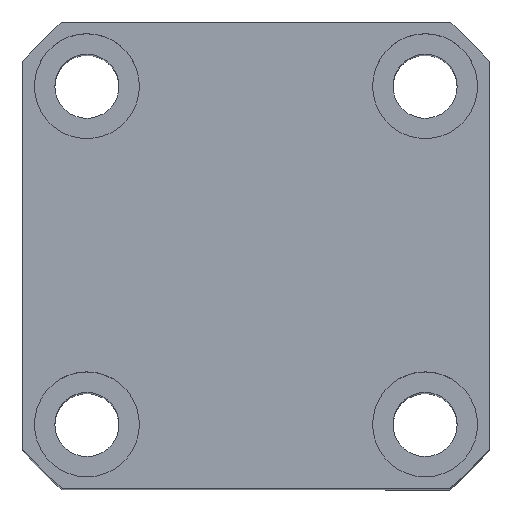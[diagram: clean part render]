
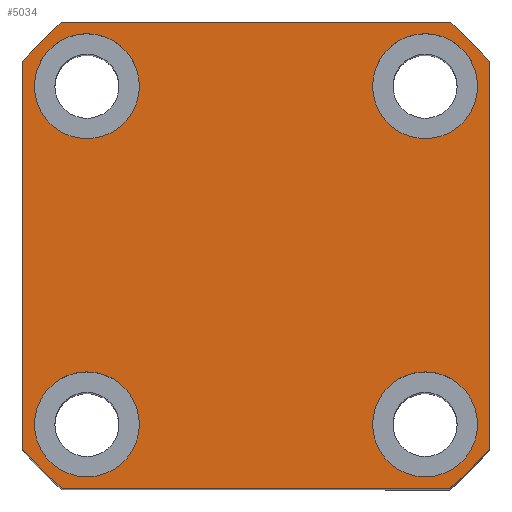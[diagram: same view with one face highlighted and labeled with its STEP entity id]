
A CAD part, top view. The second image highlights one B-rep face of the part: STEP entity #5034.
In plain terms, the highlighted planar face has unit normal (0, 0, 1).
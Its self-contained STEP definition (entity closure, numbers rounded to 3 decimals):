
#171 = DIRECTION ( 'NONE',  ( 0., 0., 1. ) ) ;
#208 = DIRECTION ( 'NONE',  ( 0., -1., 0. ) ) ;
#233 = VERTEX_POINT ( 'NONE', #699 ) ;
#261 = CARTESIAN_POINT ( 'NONE',  ( -29., -29., 75. ) ) ;
#317 = EDGE_CURVE ( 'NONE', #2623, #10497, #5417, .T. ) ;
#337 = CARTESIAN_POINT ( 'NONE',  ( -40., 33.226, 75. ) ) ;
#408 = EDGE_CURVE ( 'NONE', #10497, #2623, #2910, .T. ) ;
#625 = DIRECTION ( 'NONE',  ( -1., 0., 0. ) ) ;
#660 = VERTEX_POINT ( 'NONE', #7676 ) ;
#699 = CARTESIAN_POINT ( 'NONE',  ( -33.226, -40., 75. ) ) ;
#834 = CARTESIAN_POINT ( 'NONE',  ( -38., 29., 75. ) ) ;
#1025 = DIRECTION ( 'NONE',  ( 1., 0., 0. ) ) ;
#1188 = CIRCLE ( 'NONE', #2535, 52. ) ;
#1214 = CARTESIAN_POINT ( 'NONE',  ( 0., 0., 75. ) ) ;
#1239 = CARTESIAN_POINT ( 'NONE',  ( 0., 0., 75. ) ) ;
#1369 = FACE_BOUND ( 'NONE', #2800, .T. ) ;
#1377 = CARTESIAN_POINT ( 'NONE',  ( 33.226, -40., 75. ) ) ;
#1422 = CARTESIAN_POINT ( 'NONE',  ( -33.226, 40., 75. ) ) ;
#1506 = AXIS2_PLACEMENT_3D ( 'NONE', #1214, #3632, #6977 ) ;
#1589 = EDGE_CURVE ( 'NONE', #10845, #8754, #8383, .T. ) ;
#1592 = LINE ( 'NONE', #3396, #4752 ) ;
#1713 = CARTESIAN_POINT ( 'NONE',  ( -29., 29., 75. ) ) ;
#1834 = VERTEX_POINT ( 'NONE', #8213 ) ;
#1861 = CARTESIAN_POINT ( 'NONE',  ( 40., 33.226, 75. ) ) ;
#1878 = EDGE_CURVE ( 'NONE', #660, #10129, #1188, .T. ) ;
#1915 = CARTESIAN_POINT ( 'NONE',  ( 0., 0., 75. ) ) ;
#2036 = CARTESIAN_POINT ( 'NONE',  ( 29., 29., 75. ) ) ;
#2073 = VERTEX_POINT ( 'NONE', #6242 ) ;
#2185 = ORIENTED_EDGE ( 'NONE', *, *, #1589, .F. ) ;
#2277 = DIRECTION ( 'NONE',  ( 1., 0., 0. ) ) ;
#2381 = CIRCLE ( 'NONE', #8631, 9. ) ;
#2425 = LINE ( 'NONE', #1422, #4033 ) ;
#2535 = AXIS2_PLACEMENT_3D ( 'NONE', #8246, #10785, #2277 ) ;
#2538 = CARTESIAN_POINT ( 'NONE',  ( -40., 33.226, 75. ) ) ;
#2574 = CARTESIAN_POINT ( 'NONE',  ( 0., 0., 75. ) ) ;
#2623 = VERTEX_POINT ( 'NONE', #8614 ) ;
#2646 = CIRCLE ( 'NONE', #1506, 52. ) ;
#2720 = ORIENTED_EDGE ( 'NONE', *, *, #6435, .F. ) ;
#2774 = CIRCLE ( 'NONE', #7188, 52. ) ;
#2775 = DIRECTION ( 'NONE',  ( 0., 0., 1. ) ) ;
#2800 = EDGE_LOOP ( 'NONE', ( #8840, #7362 ) ) ;
#2801 = DIRECTION ( 'NONE',  ( 1., 0., 0. ) ) ;
#2854 = VERTEX_POINT ( 'NONE', #1377 ) ;
#2910 = CIRCLE ( 'NONE', #10183, 9. ) ;
#2963 = ORIENTED_EDGE ( 'NONE', *, *, #3898, .F. ) ;
#2973 = ORIENTED_EDGE ( 'NONE', *, *, #3221, .F. ) ;
#2984 = ORIENTED_EDGE ( 'NONE', *, *, #3357, .T. ) ;
#3221 = EDGE_CURVE ( 'NONE', #7943, #6927, #10558, .T. ) ;
#3357 = EDGE_CURVE ( 'NONE', #10129, #7148, #2425, .T. ) ;
#3396 = CARTESIAN_POINT ( 'NONE',  ( -33.226, -40., 75. ) ) ;
#3472 = CIRCLE ( 'NONE', #7794, 9. ) ;
#3551 = DIRECTION ( 'NONE',  ( 0., 1., 0. ) ) ;
#3632 = DIRECTION ( 'NONE',  ( 0., 0., 1. ) ) ;
#3726 = EDGE_CURVE ( 'NONE', #10344, #1834, #9509, .T. ) ;
#3737 = FACE_BOUND ( 'NONE', #7536, .T. ) ;
#3781 = ORIENTED_EDGE ( 'NONE', *, *, #1878, .T. ) ;
#3840 = EDGE_LOOP ( 'NONE', ( #2973, #4603 ) ) ;
#3898 = EDGE_CURVE ( 'NONE', #1834, #10344, #3472, .T. ) ;
#4033 = VECTOR ( 'NONE', #625, 1000. ) ;
#4093 = AXIS2_PLACEMENT_3D ( 'NONE', #5001, #4190, #8231 ) ;
#4124 = DIRECTION ( 'NONE',  ( 1., 0., 0. ) ) ;
#4190 = DIRECTION ( 'NONE',  ( 0., 0., 1. ) ) ;
#4193 = ORIENTED_EDGE ( 'NONE', *, *, #7241, .T. ) ;
#4374 = CARTESIAN_POINT ( 'NONE',  ( 20., 29., 75. ) ) ;
#4479 = CIRCLE ( 'NONE', #4955, 52. ) ;
#4603 = ORIENTED_EDGE ( 'NONE', *, *, #5004, .F. ) ;
#4652 = AXIS2_PLACEMENT_3D ( 'NONE', #261, #10337, #1025 ) ;
#4752 = VECTOR ( 'NONE', #9254, 1000. ) ;
#4955 = AXIS2_PLACEMENT_3D ( 'NONE', #1915, #6128, #5313 ) ;
#5001 = CARTESIAN_POINT ( 'NONE',  ( -29., 29., 75. ) ) ;
#5004 = EDGE_CURVE ( 'NONE', #6927, #7943, #10022, .T. ) ;
#5034 = ADVANCED_FACE ( 'NONE', ( #3737, #6115, #10289, #1369, #7798 ), #10099, .T. ) ;
#5144 = AXIS2_PLACEMENT_3D ( 'NONE', #2574, #7833, #9517 ) ;
#5313 = DIRECTION ( 'NONE',  ( 1., 0., 0. ) ) ;
#5398 = DIRECTION ( 'NONE',  ( 0., 0., 1. ) ) ;
#5417 = CIRCLE ( 'NONE', #8556, 9. ) ;
#5586 = EDGE_LOOP ( 'NONE', ( #2963, #6510 ) ) ;
#5827 = LINE ( 'NONE', #1861, #8931 ) ;
#5863 = CARTESIAN_POINT ( 'NONE',  ( -20., -29., 75. ) ) ;
#5908 = ORIENTED_EDGE ( 'NONE', *, *, #9284, .T. ) ;
#5956 = ORIENTED_EDGE ( 'NONE', *, *, #8397, .T. ) ;
#5995 = DIRECTION ( 'NONE',  ( 0., 0., 1. ) ) ;
#6064 = ORIENTED_EDGE ( 'NONE', *, *, #9207, .T. ) ;
#6115 = FACE_BOUND ( 'NONE', #3840, .T. ) ;
#6128 = DIRECTION ( 'NONE',  ( 0., 0., 1. ) ) ;
#6242 = CARTESIAN_POINT ( 'NONE',  ( -40., -33.226, 75. ) ) ;
#6435 = EDGE_CURVE ( 'NONE', #8754, #10845, #2381, .T. ) ;
#6510 = ORIENTED_EDGE ( 'NONE', *, *, #3726, .F. ) ;
#6759 = DIRECTION ( 'NONE',  ( 1., 0., 0. ) ) ;
#6829 = DIRECTION ( 'NONE',  ( 1., 0., 0. ) ) ;
#6927 = VERTEX_POINT ( 'NONE', #7747 ) ;
#6977 = DIRECTION ( 'NONE',  ( 1., 0., 0. ) ) ;
#6999 = DIRECTION ( 'NONE',  ( 0., 0., 1. ) ) ;
#7049 = CARTESIAN_POINT ( 'NONE',  ( -33.226, 40., 75. ) ) ;
#7127 = AXIS2_PLACEMENT_3D ( 'NONE', #7894, #171, #7617 ) ;
#7148 = VERTEX_POINT ( 'NONE', #7049 ) ;
#7188 = AXIS2_PLACEMENT_3D ( 'NONE', #1239, #6999, #2801 ) ;
#7241 = EDGE_CURVE ( 'NONE', #10601, #660, #5827, .T. ) ;
#7362 = ORIENTED_EDGE ( 'NONE', *, *, #408, .F. ) ;
#7481 = CARTESIAN_POINT ( 'NONE',  ( 29., -29., 75. ) ) ;
#7488 = LINE ( 'NONE', #2538, #10354 ) ;
#7518 = DIRECTION ( 'NONE',  ( 0., 0., 1. ) ) ;
#7536 = EDGE_LOOP ( 'NONE', ( #2720, #2185 ) ) ;
#7617 = DIRECTION ( 'NONE',  ( 1., 0., 0. ) ) ;
#7676 = CARTESIAN_POINT ( 'NONE',  ( 40., 33.226, 75. ) ) ;
#7726 = AXIS2_PLACEMENT_3D ( 'NONE', #8440, #10146, #6829 ) ;
#7743 = EDGE_LOOP ( 'NONE', ( #10485, #6064, #5908, #5956, #8028, #4193, #3781, #2984 ) ) ;
#7747 = CARTESIAN_POINT ( 'NONE',  ( -38., -29., 75. ) ) ;
#7794 = AXIS2_PLACEMENT_3D ( 'NONE', #1713, #5995, #6759 ) ;
#7798 = FACE_OUTER_BOUND ( 'NONE', #7743, .T. ) ;
#7803 = CARTESIAN_POINT ( 'NONE',  ( 29., 29., 75. ) ) ;
#7809 = CARTESIAN_POINT ( 'NONE',  ( 38., -29., 75. ) ) ;
#7833 = DIRECTION ( 'NONE',  ( 0., 0., 1. ) ) ;
#7894 = CARTESIAN_POINT ( 'NONE',  ( 29., -29., 75. ) ) ;
#7943 = VERTEX_POINT ( 'NONE', #5863 ) ;
#8006 = DIRECTION ( 'NONE',  ( 1., 0., 0. ) ) ;
#8028 = ORIENTED_EDGE ( 'NONE', *, *, #9382, .T. ) ;
#8213 = CARTESIAN_POINT ( 'NONE',  ( -20., 29., 75. ) ) ;
#8231 = DIRECTION ( 'NONE',  ( 1., 0., 0. ) ) ;
#8246 = CARTESIAN_POINT ( 'NONE',  ( 0., 0., 75. ) ) ;
#8383 = CIRCLE ( 'NONE', #7127, 9. ) ;
#8397 = EDGE_CURVE ( 'NONE', #233, #2854, #1592, .T. ) ;
#8440 = CARTESIAN_POINT ( 'NONE',  ( -29., -29., 75. ) ) ;
#8556 = AXIS2_PLACEMENT_3D ( 'NONE', #7803, #2775, #10439 ) ;
#8614 = CARTESIAN_POINT ( 'NONE',  ( 38., 29., 75. ) ) ;
#8631 = AXIS2_PLACEMENT_3D ( 'NONE', #7481, #7518, #4124 ) ;
#8754 = VERTEX_POINT ( 'NONE', #7809 ) ;
#8761 = EDGE_CURVE ( 'NONE', #7148, #8859, #2646, .T. ) ;
#8840 = ORIENTED_EDGE ( 'NONE', *, *, #317, .F. ) ;
#8859 = VERTEX_POINT ( 'NONE', #337 ) ;
#8931 = VECTOR ( 'NONE', #3551, 1000. ) ;
#9207 = EDGE_CURVE ( 'NONE', #8859, #2073, #7488, .T. ) ;
#9254 = DIRECTION ( 'NONE',  ( 1., 0., 0. ) ) ;
#9284 = EDGE_CURVE ( 'NONE', #2073, #233, #4479, .T. ) ;
#9382 = EDGE_CURVE ( 'NONE', #2854, #10601, #2774, .T. ) ;
#9509 = CIRCLE ( 'NONE', #4093, 9. ) ;
#9517 = DIRECTION ( 'NONE',  ( 1., 0., 0. ) ) ;
#9893 = CARTESIAN_POINT ( 'NONE',  ( 20., -29., 75. ) ) ;
#10022 = CIRCLE ( 'NONE', #7726, 9. ) ;
#10099 = PLANE ( 'NONE',  #5144 ) ;
#10129 = VERTEX_POINT ( 'NONE', #10735 ) ;
#10146 = DIRECTION ( 'NONE',  ( 0., 0., 1. ) ) ;
#10183 = AXIS2_PLACEMENT_3D ( 'NONE', #2036, #5398, #8006 ) ;
#10212 = CARTESIAN_POINT ( 'NONE',  ( 40., -33.226, 75. ) ) ;
#10289 = FACE_BOUND ( 'NONE', #5586, .T. ) ;
#10337 = DIRECTION ( 'NONE',  ( 0., 0., 1. ) ) ;
#10344 = VERTEX_POINT ( 'NONE', #834 ) ;
#10354 = VECTOR ( 'NONE', #208, 1000. ) ;
#10439 = DIRECTION ( 'NONE',  ( 1., 0., 0. ) ) ;
#10485 = ORIENTED_EDGE ( 'NONE', *, *, #8761, .T. ) ;
#10497 = VERTEX_POINT ( 'NONE', #4374 ) ;
#10558 = CIRCLE ( 'NONE', #4652, 9. ) ;
#10601 = VERTEX_POINT ( 'NONE', #10212 ) ;
#10735 = CARTESIAN_POINT ( 'NONE',  ( 33.226, 40., 75. ) ) ;
#10785 = DIRECTION ( 'NONE',  ( 0., 0., 1. ) ) ;
#10845 = VERTEX_POINT ( 'NONE', #9893 ) ;
